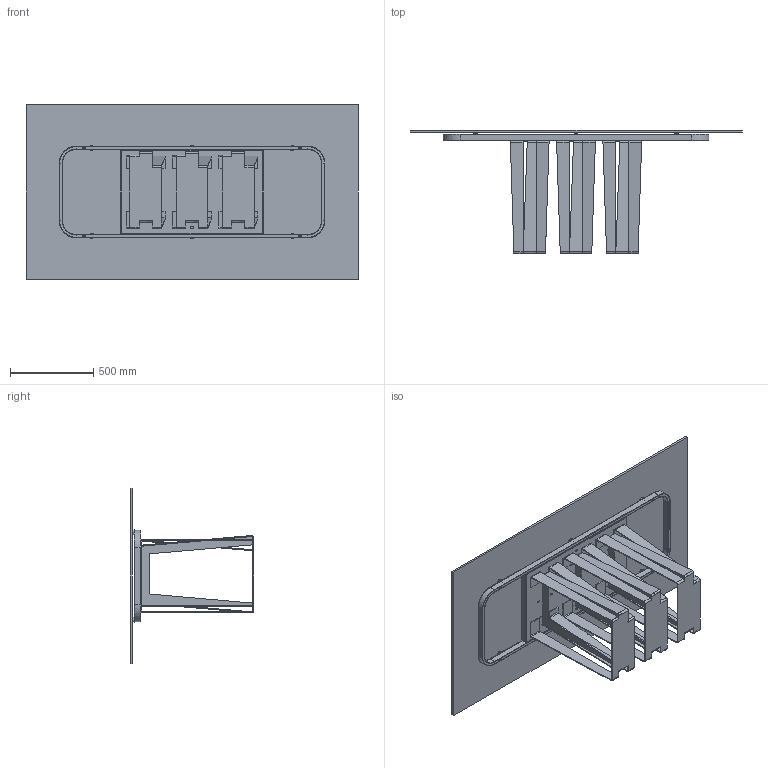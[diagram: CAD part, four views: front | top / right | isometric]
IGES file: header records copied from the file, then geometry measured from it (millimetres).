
Start section: SolidWorks IGES file using analytic representation for surfaces
Global section: file name: Y:\eforma\TECNICO\SOLIDWORKS\E-FORMA\1-TAVOLI\NARCISO\02 parts\NA21G.IGS; native system: SolidWorks 2022; preprocessor: SolidWorks 2022; author: eforma.tech; date: 240807.163718; units: millimetre
Bounding box: 2000 x 742 x 1060 mm (x, y, z)
Volume: 37050151.7 mm3; surface area: 9227468.7 mm2
Topology: 34 solids, 34 shells, 1015 faces, 2467 edges, 1514 vertices
Faces by surface type: plane 549, revolution 430, bspline 36
